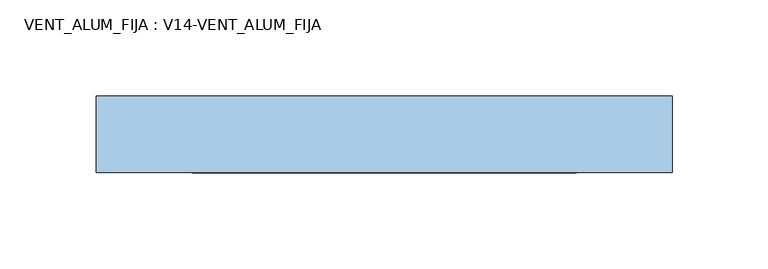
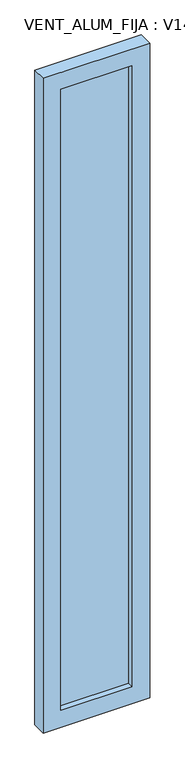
"""IFC4 building model written with IfcOpenShell, lengths in millimetres: window geometry, VENT_ALUM_FIJA : V14-VENT_ALUM_FIJA."""

from ifc_helpers import new_model, si_unit, frame, origin, place, context, project, spatial, polyline, outline, extrude, source, transform, mapped, element, save


def vent_alum_fija_v14_vent_alum_fija_8632f3da(model_context):
    return source(origin(), model_context, "Body", "SweptSolid", [
        extrude(outline(polyline([(800.0, -150.0), (800.0, 150.0), (2750.0, 150.0), (2750.0, -150.0), (800.0, -150.0)]), holes=[polyline([(2700.0, -100.0), (2700.0, 100.0), (850.0, 100.0), (850.0, -100.0), (2700.0, -100.0)])]), frame((0.0, -20.0, 0.0), z_axis=(0.0, 1.0, 0.0), x_axis=(0.0, 0.0, 1.0)), (0.0, 0.0, 1.0), 40.0),
        extrude(outline(polyline([(100.0, -3.0), (-100.0, -3.0), (-100.0, 3.0), (100.0, 3.0), (100.0, -3.0)])), frame((0.0, 0.0, 850.0), z_axis=(0.0, 0.0, 1.0), x_axis=(1.0, 0.0, 0.0)), (0.0, 0.0, 1.0), 1850.0),
    ])


if __name__ == "__main__":
    model = new_model("IFC4")
    model_context = context("Model", 3, world=origin())
    ifc_project = project(units=[si_unit("LENGTHUNIT", "METRE", prefix="MILLI")], contexts=[model_context])
    site = spatial("IfcSite", under=ifc_project)
    building = spatial("IfcBuilding", under=site)
    placement = place(None, origin())
    vent_alum_fija_v14_vent_alum_fija_shape = vent_alum_fija_v14_vent_alum_fija_8632f3da(model_context)
    element("IfcWindow", 1, ObjectType="VENT_ALUM_FIJA : V14-VENT_ALUM_FIJA", at=placement, inside=building, context=model_context, shape_type="MappedRepresentation", body=[
        mapped(vent_alum_fija_v14_vent_alum_fija_shape, transform((0.0, 0.0, 0.0), x_axis=(1.0, 0.0, 0.0), y_axis=(0.0, 1.0, 0.0), z_axis=(0.0, 0.0, 1.0))),
    ])
    save(model, "model.ifc")
